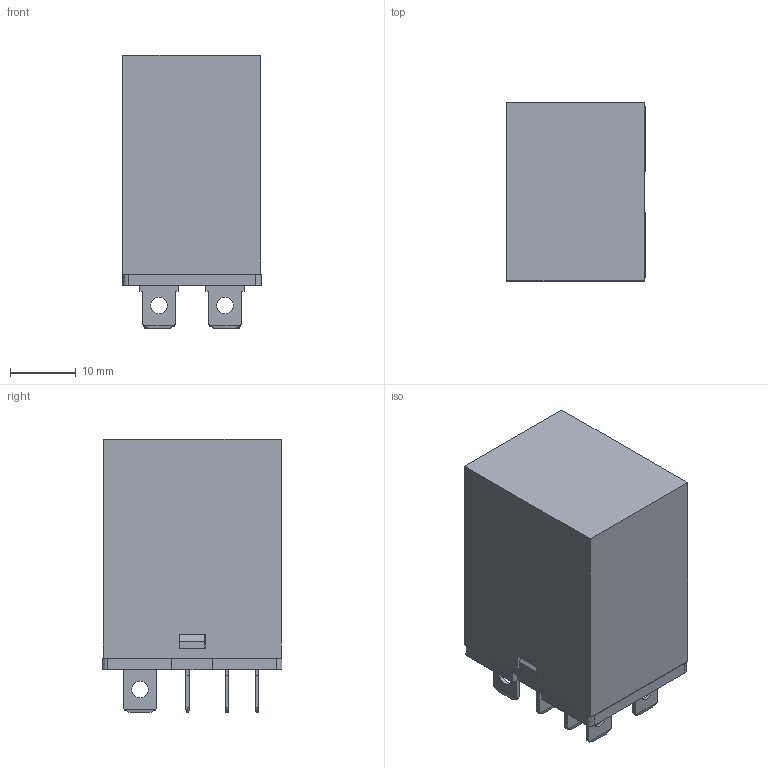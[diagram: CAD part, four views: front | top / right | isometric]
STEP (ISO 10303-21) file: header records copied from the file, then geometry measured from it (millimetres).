
FILE_DESCRIPTION (( 'STEP AP203' ), '1' );
FILE_NAME ('68A2Z都寞.STEP', '2019-03-14T02:46:10', ( 'XiaZaiMa.COM' ), ( 'Win10NeT.COM' ), 'SwSTEP 2.0', 'SolidWorks 2014', '' );
FILE_SCHEMA (( 'CONFIG_CONTROL_DESIGN' ));
Length unit declared in the file: millimetre
Products named in the file (24): 嶺銅; 68A2Z橈埽え; 68A2z遵褐諉盄え衵; 68A2Z都寞芵隴俋褲; 68A2Z玴沺DC; 68A2ZDC濎沺; 68A2Z都寞; 雄銅え郪璃; 68A2Z线圈架; 68A2Z线圈引线脚; 68A2Z盄婁; ly2價釱毀脣2Z; 68A2Z线圈引线脚左; 68A2ZDC沺郋; 68A2Z湮謂遵褐噙え; 68Z2Z湮謂噙萸; 68A2Z雄輸; 68A2Z諉盄え遵褐毀脣; 68A2Z雄萸4.4; 68A2Z雄銅え等え; 68A2Z諉盄え遵褐毀脣衵; 13F蹟佪; 68A2Z傻穩隊; 68A2z遵褐諉盄え
Assembly tree (31 placements, depth 3):
  68A2Z都寞
    ly2價釱毀脣2Z
    68A2Z湮謂遵褐噙え  x4
    68A2Z諉盄え遵褐毀脣
    68A2Z諉盄え遵褐毀脣衵
    68A2z遵褐諉盄え
    68A2z遵褐諉盄え衵
    68A2ZDC濎沺
    68A2Z线圈架
    68A2Z盄婁
    68A2ZDC沺郋
    雄銅え郪璃
      68A2Z雄輸
      68A2Z雄銅え等え
      68A2Z傻穩隊  x2
      68A2Z橈埽え
      68A2Z玴沺DC
    68A2Z线圈引线脚
    68A2Z线圈引线脚左
    68Z2Z湮謂噙萸  x4
    68A2Z雄萸4.4  x2
    13F蹟佪
    嶺銅
    68A2Z都寞芵隴俋褲
Bounding box: 21 x 27.3 x 41.5 mm (x, y, z)
Volume: 10659.3 mm3; surface area: 18868.9 mm2
Topology: 31 solids, 31 shells, 1954 faces, 5027 edges, 3199 vertices
Faces by surface type: plane 1262, cylinder 514, torus 73, bspline 43, sphere 42, cone 20
Entity records: 62195 total; most frequent: CARTESIAN_POINT 15771, ORIENTED_EDGE 9170, DIRECTION 8862, EDGE_CURVE 4585, LINE 3394, VECTOR 3394, VERTEX_POINT 2937, AXIS2_PLACEMENT_3D 2734
